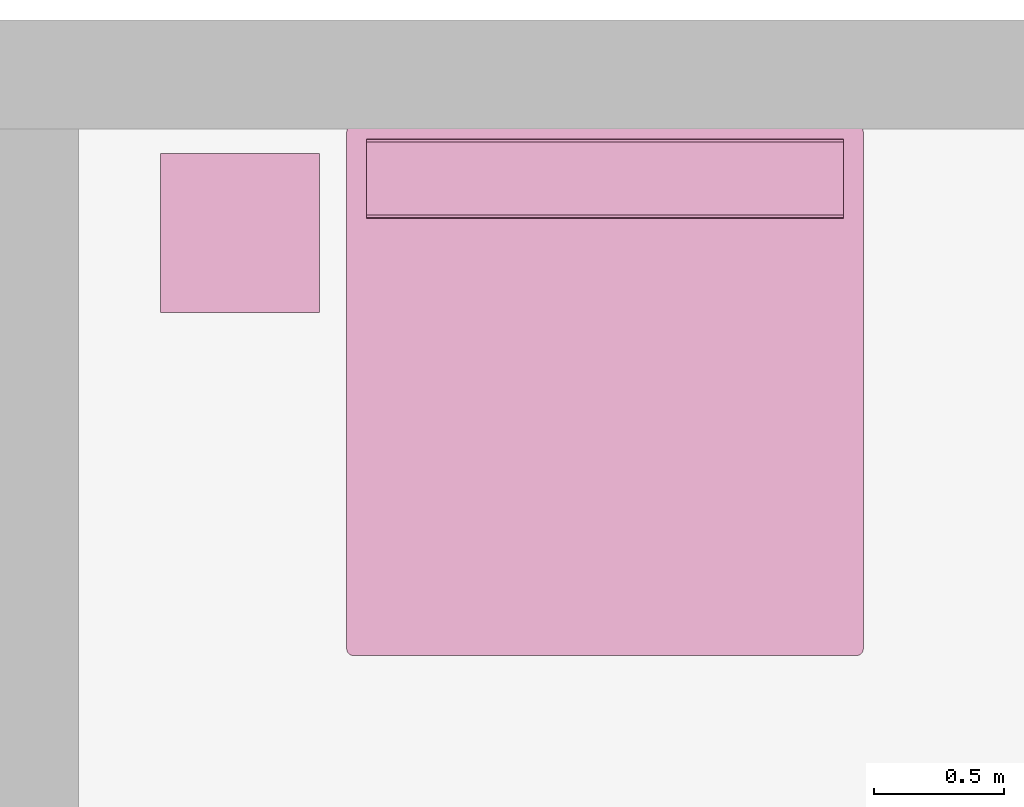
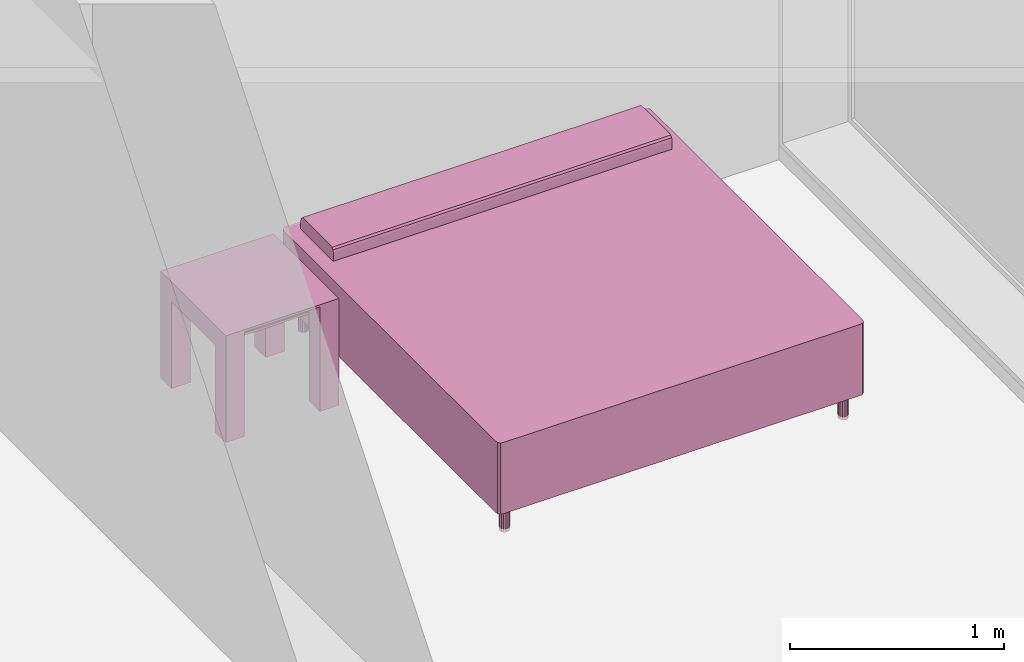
# One storey, part 8 of 8: 2 furnishings.
"""IFC4 building model written with IfcOpenShell, lengths in metres."""

from ifc_helpers import new_model, entity, si_unit, converted_unit, frame, origin, origin_2d_with_axis, place, context, project, spatial, polyline, rectangle, outline, extrude, face_set, surface_model, source, transform, mapped, element, save


model = new_model("IFC4")

# Units and contexts
model_context = context("Model", 3, precision=1e-09, world=origin())
plan_context = context("Plan", 3, precision=1e-09, world=origin())
ifc_project = project(units=[si_unit("LENGTHUNIT", "METRE"), si_unit("AREAUNIT", "SQUARE_METRE"), si_unit("VOLUMEUNIT", "CUBIC_METRE"), converted_unit("PLANEANGLEUNIT", "DEGREE", entity("IfcRatioMeasure", 0.01745329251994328), si_unit("PLANEANGLEUNIT", "RADIAN"), dimensions=[0, 0, 0, 0, 0, 0, 0]), si_unit("TIMEUNIT", "SECOND")], contexts=[model_context, plan_context])

# Site, building, storey, space
site_placement = place(None, origin())
site = spatial("IfcSite", under=ifc_project, at=site_placement, Name="Default", CompositionType="ELEMENT")
building_placement = place(site_placement, origin())
building = spatial("IfcBuilding", under=site, at=building_placement, CompositionType="ELEMENT")
storey_placement = place(building_placement, frame((0.0, 0.0, 3.100000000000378)))
storey = spatial("IfcBuildingStorey", under=building, at=storey_placement, Name="Level 2", CompositionType="ELEMENT", Elevation=3.100000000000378)
space_placement = place(storey_placement, origin())
space = spatial("IfcSpace", under=storey, at=space_placement, Name="A202", CompositionType="ELEMENT", PredefinedType="INTERNAL")

# Furnishings
shared_shape_1 = source(origin(), model_context, "Body", "SweptSolid", [
    extrude(rectangle(XDim=0.4067999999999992, YDim=0.4067999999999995, at=origin_2d_with_axis()), frame((0.01826576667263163, 0.09521107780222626, 0.4957000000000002), z_axis=(0.0, 0.0, 1.0), x_axis=(-1.0, 0.0, 0.0)), (0.0, 0.0, 1.0), 0.01270000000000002),
    extrude(outline(polyline([(-0.2732499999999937, -0.3050000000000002), (0.3240499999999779, -0.3050000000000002), (0.3240499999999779, 0.3049999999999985), (-0.2732499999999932, 0.3049999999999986), (-0.2732499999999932, 0.2034000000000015), (0.2224500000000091, 0.2034000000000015), (0.2224500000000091, -0.2033999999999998), (-0.2732499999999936, -0.2033999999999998), (-0.2732499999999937, -0.3050000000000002)])), frame((0.2216657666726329, 0.09521107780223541, 0.2732499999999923), z_axis=(1.0, 0.0, 0.0), x_axis=(0.0, 0.0, 1.0)), (0.0, 0.0, 1.0), 0.1016),
    extrude(outline(polyline([(-0.3050000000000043, -0.3240500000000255), (0.3049999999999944, -0.3240500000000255), (0.3049999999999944, 0.2732500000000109), (0.2034000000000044, 0.2732500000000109), (0.2034000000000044, -0.2224499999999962), (-0.2033999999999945, -0.2224499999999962), (-0.2033999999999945, 0.2732500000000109), (-0.3050000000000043, 0.2732500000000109), (-0.3050000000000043, -0.3240500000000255)])), frame((-0.2867342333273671, 0.09521107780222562, 0.2732500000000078), z_axis=(1.0, 0.0, 0.0), x_axis=(0.0, -1.0, 0.0)), (0.0, 0.0, 1.0), 0.1016),
    extrude(rectangle(XDim=0.4067999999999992, YDim=0.4067999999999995, at=origin_2d_with_axis()), frame((0.01826576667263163, 0.09521107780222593, 0.5973000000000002), z_axis=(0.0, 0.0, 1.0), x_axis=(-1.0, 0.0, 0.0)), (0.0, 0.0, 1.0), 0.01270000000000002),
    extrude(outline(polyline([(-0.3050000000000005, -0.3050000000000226), (0.3050000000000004, -0.3050000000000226), (0.3050000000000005, 0.3050000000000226), (-0.3050000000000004, 0.3050000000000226), (-0.3050000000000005, -0.3050000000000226)]), holes=[polyline([(-0.203399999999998, -0.2033999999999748), (-0.2033999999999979, 0.2034000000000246), (0.2034000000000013, 0.2034000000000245), (0.2034000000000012, -0.2033999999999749), (-0.203399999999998, -0.2033999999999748)])]), frame((0.01826576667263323, 0.09521107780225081, 0.5973000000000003), z_axis=(0.0, 0.0, 1.0), x_axis=(-1.0, 0.0, 0.0)), (0.0, 0.0, 1.0), 0.01269999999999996),
])
furnishing_1_placement = place(space_placement, frame((5.275734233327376, -0.9122110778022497, 0.01899999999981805)))
element("IfcFurnishingElement", 1, at=furnishing_1_placement, inside=space, Name="M_Table-Coffee:0610 x 0610 x 0610mm:0610 x 0610 x 0610mm", ObjectType="0610 x 0610 x 0610mm", context=model_context, shape_type="MappedRepresentation", body=[
    mapped(shared_shape_1, transform((0.0, 0.0, 0.0), scale=1.0)),
])
shared_shape_2 = source(origin(), model_context, "Body", "SurfaceModel", [
    surface_model("IfcFaceBasedSurfaceModel", [(0.001595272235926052, 0.02699527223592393, 0.3556), (0.001595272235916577, 2.008195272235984, 0.3556), (0.004998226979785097, 2.020895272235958, 0.3556), (0.01429527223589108, 2.030192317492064, 0.3556), (0.02699527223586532, 2.033595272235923, 0.3556), (1.957195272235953, 2.033595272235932, 0.3556), (1.969895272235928, 2.030192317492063, 0.3556), (1.979192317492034, 2.020895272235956, 0.3556), (1.982595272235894, 2.008195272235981, 0.3556), (1.982595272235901, 0.02699527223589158, 0.3556), (1.979192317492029, 0.01429527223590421, 0.3556), (1.969895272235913, 0.004998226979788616, 0.3556), (1.957195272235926, 0.001595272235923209, 0.3556), (0.02699527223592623, 0.00159527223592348, 0.3556), (0.01429527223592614, 0.004998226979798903, 0.3556), (0.00499822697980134, 0.01429527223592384, 0.3556), (0.001595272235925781, 0.02699527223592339, 0.1524), (0.001595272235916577, 2.008195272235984, 0.1524), (0.004998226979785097, 2.020895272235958, 0.1524), (0.01429527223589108, 2.030192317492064, 0.1524), (0.02699527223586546, 2.033595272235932, 0.1524), (1.957195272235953, 2.033595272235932, 0.1524), (1.969895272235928, 2.030192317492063, 0.1524), (1.979192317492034, 2.020895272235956, 0.1524), (1.982595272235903, 2.008195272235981, 0.1524), (1.982595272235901, 0.02699527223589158, 0.1524), (1.979192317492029, 0.01429527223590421, 0.1524), (1.969895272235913, 0.004998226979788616, 0.1524), (1.957195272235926, 0.001595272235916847, 0.1524), (0.02699527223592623, 0.00159527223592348, 0.1524), (0.01429527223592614, 0.004998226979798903, 0.1524), (0.00499822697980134, 0.01429527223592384, 0.1524), (0.003559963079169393, 0.01966291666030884, 0.1524000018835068), (0.003296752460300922, 0.02064526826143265, 0.3555999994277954), (0.009646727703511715, 0.009646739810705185, 0.3555999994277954), (0.009646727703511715, 0.009646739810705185, 0.1524000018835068), (0.02064525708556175, 0.003296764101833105, 0.1524000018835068), (0.01966290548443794, 0.003559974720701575, 0.3555999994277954), (1.964527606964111, 0.003559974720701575, 0.1524000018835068), (1.963545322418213, 0.003296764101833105, 0.3555999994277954), (1.974543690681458, 0.009646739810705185, 0.3555999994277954), (1.974543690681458, 0.009646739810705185, 0.1524000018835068), (1.980893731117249, 0.02064526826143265, 0.1524000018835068), (1.98063051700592, 0.01966291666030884, 0.3555999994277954), (1.980893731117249, 2.014545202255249, 0.3555999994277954), (1.980893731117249, 2.014545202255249, 0.1524000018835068), (1.974543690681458, 2.025543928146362, 0.3555999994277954), (1.974543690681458, 2.025543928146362, 0.1524000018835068), (1.963545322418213, 2.031893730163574, 0.1524000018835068), (1.964527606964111, 2.031630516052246, 0.3555999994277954), (0.01966290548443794, 2.031630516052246, 0.1524000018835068), (0.02064525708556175, 2.031893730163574, 0.3555999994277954), (0.009646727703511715, 2.025543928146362, 0.3555999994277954), (0.009646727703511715, 2.025543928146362, 0.1524000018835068), (0.003296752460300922, 2.014545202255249, 0.1524000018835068), (0.003559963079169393, 2.015527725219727, 0.3555999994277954), (0.07779527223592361, 1.677995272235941, 0.5588000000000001), (0.07779527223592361, 1.677995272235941, 0.6096), (0.07779527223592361, 1.681398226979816, 0.6223), (0.07779527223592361, 1.690695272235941, 0.6315970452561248), (0.07779527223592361, 1.703395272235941, 0.6349999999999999), (0.07779527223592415, 1.957395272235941, 0.6349999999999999), (0.07779527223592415, 1.970095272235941, 0.6315970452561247), (0.07779527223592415, 1.979392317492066, 0.6222999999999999), (0.07779527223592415, 1.982795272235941, 0.6095999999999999), (0.07779527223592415, 1.982795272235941, 0.5588000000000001), (1.906395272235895, 1.677995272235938, 0.5588000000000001), (1.906395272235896, 1.982795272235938, 0.5588000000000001), (1.906395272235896, 1.982795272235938, 0.6095999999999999), (1.906395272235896, 1.979392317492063, 0.6222999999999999), (1.906395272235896, 1.970095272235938, 0.6315970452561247), (1.906395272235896, 1.957395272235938, 0.6349999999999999), (1.906395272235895, 1.703395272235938, 0.6349999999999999), (1.906395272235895, 1.690695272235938, 0.6315970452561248), (1.906395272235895, 1.681398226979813, 0.6223), (1.906395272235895, 1.677995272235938, 0.6096), (0.07779525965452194, 1.679741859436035, 0.6161183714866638), (1.906395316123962, 1.679696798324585, 0.6159499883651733), (0.07779525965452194, 1.686046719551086, 0.6269484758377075), (1.906395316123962, 1.686046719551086, 0.6269484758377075), (1.906395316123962, 1.69704532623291, 0.6332985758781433), (0.07779525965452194, 1.696876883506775, 0.6332534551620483), (1.906395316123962, 1.963913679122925, 0.6332534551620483), (0.07779525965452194, 1.96374523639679, 0.6332985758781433), (0.07779525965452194, 1.974743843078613, 0.6269484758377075), (1.906395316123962, 1.974743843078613, 0.6269484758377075), (1.906395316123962, 1.981093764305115, 0.6159499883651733), (0.07779525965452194, 1.981048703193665, 0.6161183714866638), (0.1031952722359, 1.957395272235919, 0.1524), (0.1006798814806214, 1.946374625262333, 0.1524), (0.09363191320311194, 1.937536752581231, 0.1524), (0.08344730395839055, 1.932632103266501, 0.1524), (0.07214324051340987, 1.932632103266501, 0.1524), (0.06195863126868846, 1.937536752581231, 0.1524), (0.05491066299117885, 1.946374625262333, 0.1524), (0.05239527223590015, 1.957395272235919, 0.1524), (0.05491066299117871, 1.968415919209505, 0.1524), (0.06195863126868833, 1.977253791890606, 0.1524), (0.07214324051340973, 1.982158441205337, 0.1524), (0.08344730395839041, 1.982158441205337, 0.1524), (0.0936319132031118, 1.977253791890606, 0.1524), (0.1006798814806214, 1.968415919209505, 0.1524), (1.931795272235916, 1.957395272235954, 0.1524), (1.929279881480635, 1.946374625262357, 0.1524), (1.922231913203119, 1.937536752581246, 0.1524), (1.912047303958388, 1.932632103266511, 0.1524), (1.900743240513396, 1.932632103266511, 0.1524), (1.890558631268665, 1.937536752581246, 0.1524), (1.883510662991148, 1.946374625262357, 0.1524), (1.880995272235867, 1.957395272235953, 0.1524), (1.883510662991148, 1.96841591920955, 0.1524), (1.890558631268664, 1.97725379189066, 0.1524), (1.900743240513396, 1.982158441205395, 0.1524), (1.912047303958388, 1.982158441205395, 0.1524), (1.922231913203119, 1.97725379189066, 0.1524), (1.929279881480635, 1.96841591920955, 0.1524), (1.931795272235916, 0.0777952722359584, 0.1524), (1.929279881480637, 0.06677462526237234, 0.1524), (1.922231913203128, 0.0579367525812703, 0.1524), (1.912047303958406, 0.05303210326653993, 0.1524), (1.900743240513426, 0.05303210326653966, 0.1524), (1.890558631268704, 0.0579367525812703, 0.1524), (1.883510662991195, 0.06677462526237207, 0.1524), (1.880995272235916, 0.07779527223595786, 0.1524), (1.883510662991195, 0.08881591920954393, 0.1524), (1.890558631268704, 0.09765379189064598, 0.1524), (1.900743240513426, 0.1025584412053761, 0.1524), (1.912047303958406, 0.1025584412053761, 0.1524), (1.922231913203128, 0.09765379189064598, 0.1524), (1.929279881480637, 0.08881591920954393, 0.1524), (0.1031952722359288, 0.0777952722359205, 0.1524), (0.10067988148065, 0.06677462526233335, 0.1524), (0.09363191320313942, 0.05793675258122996, 0.1524), (0.08344730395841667, 0.05303210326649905, 0.1524), (0.07214324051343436, 0.05303210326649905, 0.1524), (0.06195863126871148, 0.05793675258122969, 0.1524), (0.05491066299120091, 0.06677462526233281, 0.1524), (0.05239527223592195, 0.0777952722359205, 0.1524), (0.05491066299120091, 0.08881591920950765, 0.1524), (0.06195863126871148, 0.09765379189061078, 0.1524), (0.07214324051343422, 0.102558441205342, 0.1524), (0.08344730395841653, 0.102558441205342, 0.1524), (0.09363191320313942, 0.09765379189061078, 0.1524), (0.1006798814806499, 0.08881591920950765, 0.1524), (0.1031952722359, 1.957395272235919, 0.0), (0.1006798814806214, 1.946374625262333, 0.0), (0.09363191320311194, 1.937536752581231, 0.0), (0.08344730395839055, 1.932632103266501, 0.0), (0.07214324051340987, 1.932632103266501, 0.0), (0.06195863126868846, 1.937536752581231, 0.0), (0.05491066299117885, 1.946374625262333, 0.0), (0.05239527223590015, 1.957395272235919, 0.0), (0.05491066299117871, 1.968415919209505, 0.0), (0.06195863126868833, 1.977253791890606, 0.0), (0.07214324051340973, 1.982158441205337, 0.0), (0.08344730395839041, 1.982158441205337, 0.0), (0.0936319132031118, 1.977253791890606, 0.0), (0.1006798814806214, 1.968415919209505, 0.0), (1.931795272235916, 1.957395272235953, 0.0), (1.929279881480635, 1.946374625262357, 0.0), (1.922231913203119, 1.937536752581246, 0.0), (1.912047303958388, 1.932632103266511, 0.0), (1.900743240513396, 1.932632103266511, 0.0), (1.890558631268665, 1.937536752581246, 0.0), (1.883510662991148, 1.946374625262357, 0.0), (1.880995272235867, 1.957395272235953, 0.0), (1.883510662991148, 1.96841591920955, 0.0), (1.890558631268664, 1.97725379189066, 0.0), (1.900743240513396, 1.982158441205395, 0.0), (1.912047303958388, 1.982158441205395, 0.0), (1.922231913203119, 1.97725379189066, 0.0), (1.929279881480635, 1.96841591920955, 0.0), (1.931795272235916, 0.07779527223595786, 0.0), (1.929279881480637, 0.06677462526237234, 0.0), (1.922231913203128, 0.0579367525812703, 0.0), (1.912047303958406, 0.05303210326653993, 0.0), (1.900743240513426, 0.05303210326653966, 0.0), (1.890558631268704, 0.0579367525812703, 0.0), (1.883510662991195, 0.06677462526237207, 0.0), (1.880995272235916, 0.07779527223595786, 0.0), (1.883510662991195, 0.08881591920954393, 0.0), (1.890558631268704, 0.09765379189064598, 0.0), (1.900743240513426, 0.1025584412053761, 0.0), (1.912047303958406, 0.1025584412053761, 0.0), (1.922231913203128, 0.09765379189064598, 0.0), (1.929279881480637, 0.08881591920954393, 0.0), (0.1031952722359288, 0.07779527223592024, 0.0), (0.10067988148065, 0.06677462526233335, 0.0), (0.09363191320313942, 0.05793675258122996, 0.0), (0.08344730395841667, 0.05303210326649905, 0.0), (0.07214324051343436, 0.05303210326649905, 0.0), (0.06195863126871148, 0.05793675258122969, 0.0), (0.05491066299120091, 0.06677462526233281, 0.0), (0.05239527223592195, 0.0777952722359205, 0.0), (0.05491066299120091, 0.08881591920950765, 0.0), (0.06195863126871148, 0.09765379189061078, 0.0), (0.07214324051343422, 0.102558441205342, 0.0), (0.08344730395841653, 0.102558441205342, 0.0), (0.09363191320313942, 0.09765379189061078, 0.0), (0.1006798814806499, 0.08881591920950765, 0.0), (0.05365297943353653, 1.951884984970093, 0.1524000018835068), (0.05843466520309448, 1.94195568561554, 0.0), (0.05843466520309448, 1.94195568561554, 0.1524000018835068), (0.1020657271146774, 1.952446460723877, 0.1524000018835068), (0.1019376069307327, 1.951884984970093, 0.0), (0.06705092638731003, 1.935084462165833, 0.0), (0.06705092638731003, 1.935084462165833, 0.1524000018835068), (0.05352479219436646, 1.952446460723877, 0.0), (0.07779525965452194, 1.932632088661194, 0.1524000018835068), (0.07779525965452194, 1.932632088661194, 0.0), (0.08853958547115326, 1.935084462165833, 0.0), (0.08853958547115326, 1.935084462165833, 0.1524000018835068), (0.09715592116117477, 1.94195568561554, 0.0), (0.09715592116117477, 1.94195568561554, 0.1524000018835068), (0.1020657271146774, 1.962344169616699, 0.0), (0.1019376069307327, 1.962905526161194, 0.1524000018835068), (0.09715592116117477, 1.972834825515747, 0.0), (0.09715592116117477, 1.972834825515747, 0.1524000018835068), (0.08853958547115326, 1.979706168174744, 0.1524000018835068), (0.08853958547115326, 1.979706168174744, 0.0), (0.07779525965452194, 1.982158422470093, 0.1524000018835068), (0.07779525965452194, 1.982158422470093, 0.0), (0.06705092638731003, 1.979706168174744, 0.1524000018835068), (0.06705092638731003, 1.979706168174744, 0.0), (0.05352479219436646, 1.962344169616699, 0.1524000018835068), (0.05843466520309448, 1.972834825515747, 0.1524000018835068), (0.05843466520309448, 1.972834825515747, 0.0), (0.05365297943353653, 1.962905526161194, 0.0), (1.882253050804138, 1.951884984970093, 0.1524000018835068), (1.88703465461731, 1.94195568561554, 0.1524000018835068), (1.88703465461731, 1.94195568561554, 0.0), (1.930537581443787, 1.951884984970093, 0.0), (1.930665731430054, 1.952446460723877, 0.1524000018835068), (1.895650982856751, 1.935084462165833, 0.0), (1.895650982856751, 1.935084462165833, 0.1524000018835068), (1.882124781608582, 1.952446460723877, 0.0), (1.906395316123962, 1.932632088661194, 0.1524000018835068), (1.906395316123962, 1.932632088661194, 0.0), (1.917139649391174, 1.935084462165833, 0.0), (1.917139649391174, 1.935084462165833, 0.1524000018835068), (1.925755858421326, 1.94195568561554, 0.0), (1.925755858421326, 1.94195568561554, 0.1524000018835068), (1.930665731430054, 1.962344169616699, 0.0), (1.930537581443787, 1.962905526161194, 0.1524000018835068), (1.925755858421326, 1.972834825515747, 0.1524000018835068), (1.925755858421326, 1.972834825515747, 0.0), (1.917139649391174, 1.979706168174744, 0.1524000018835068), (1.917139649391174, 1.979706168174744, 0.0), (1.906395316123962, 1.982158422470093, 0.1524000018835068), (1.906395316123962, 1.982158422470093, 0.0), (1.895650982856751, 1.979706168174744, 0.1524000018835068), (1.895650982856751, 1.979706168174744, 0.0), (1.882124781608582, 1.962344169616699, 0.1524000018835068), (1.88703465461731, 1.972834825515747, 0.0), (1.88703465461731, 1.972834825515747, 0.1524000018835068), (1.882253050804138, 1.962905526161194, 0.0), (1.882253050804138, 0.07228492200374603, 0.1524000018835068), (1.88703465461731, 0.0623556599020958, 0.0), (1.88703465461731, 0.0623556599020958, 0.1524000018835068), (1.930537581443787, 0.07228492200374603, 0.0), (1.930665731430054, 0.0728464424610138, 0.1524000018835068), (1.895650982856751, 0.05548442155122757, 0.1524000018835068), (1.895650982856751, 0.05548442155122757, 0.0), (1.882124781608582, 0.0728464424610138, 0.0), (1.906395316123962, 0.05303210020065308, 0.0), (1.906395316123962, 0.05303210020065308, 0.1524000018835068), (1.917139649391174, 0.05548442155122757, 0.1524000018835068), (1.917139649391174, 0.05548442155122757, 0.0), (1.925755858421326, 0.0623556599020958, 0.0), (1.925755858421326, 0.0623556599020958, 0.1524000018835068), (1.930665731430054, 0.08274409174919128, 0.0), (1.930537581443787, 0.08330561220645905, 0.1524000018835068), (1.925755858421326, 0.09323488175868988, 0.1524000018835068), (1.925755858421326, 0.09323488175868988, 0.0), (1.917139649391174, 0.1001061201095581, 0.0), (1.917139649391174, 0.1001061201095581, 0.1524000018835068), (1.906395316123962, 0.1025584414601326, 0.0), (1.906395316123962, 0.1025584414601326, 0.1524000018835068), (1.895650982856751, 0.1001061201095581, 0.0), (1.895650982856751, 0.1001061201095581, 0.1524000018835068), (1.882124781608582, 0.08274409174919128, 0.1524000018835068), (1.88703465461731, 0.09323488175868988, 0.0), (1.88703465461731, 0.09323488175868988, 0.1524000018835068), (1.882253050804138, 0.08330561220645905, 0.0), (0.05365297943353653, 0.07228492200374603, 0.1524000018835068), (0.05843466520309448, 0.0623556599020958, 0.1524000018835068), (0.05843466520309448, 0.0623556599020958, 0.0), (0.1020657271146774, 0.0728464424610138, 0.1524000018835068), (0.1019376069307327, 0.07228492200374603, 0.0), (0.06705092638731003, 0.05548442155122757, 0.1524000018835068), (0.06705092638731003, 0.05548442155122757, 0.0), (0.05352479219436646, 0.0728464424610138, 0.0), (0.07779525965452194, 0.05303210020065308, 0.0), (0.07779525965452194, 0.05303210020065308, 0.1524000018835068), (0.08853958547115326, 0.05548442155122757, 0.1524000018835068), (0.08853958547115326, 0.05548442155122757, 0.0), (0.09715592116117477, 0.0623556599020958, 0.1524000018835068), (0.09715592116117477, 0.0623556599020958, 0.0), (0.1020657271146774, 0.08274409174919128, 0.0), (0.1019376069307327, 0.08330561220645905, 0.1524000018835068), (0.09715592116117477, 0.09323488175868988, 0.0), (0.09715592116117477, 0.09323488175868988, 0.1524000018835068), (0.08853958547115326, 0.1001061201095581, 0.0), (0.08853958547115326, 0.1001061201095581, 0.1524000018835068), (0.07779525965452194, 0.1025584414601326, 0.0), (0.07779525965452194, 0.1025584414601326, 0.1524000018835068), (0.06705092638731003, 0.1001061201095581, 0.0), (0.06705092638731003, 0.1001061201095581, 0.1524000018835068), (0.05352479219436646, 0.08274409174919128, 0.1524000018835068), (0.05843466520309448, 0.09323488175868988, 0.1524000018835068), (0.05843466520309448, 0.09323488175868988, 0.0), (0.05365297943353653, 0.08330561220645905, 0.0), (0.02699527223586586, 2.033595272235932, 0.5588000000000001), (1.957195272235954, 2.033595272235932, 0.5588000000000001), (1.969895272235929, 2.030192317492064, 0.5588000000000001), (1.979192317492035, 2.020895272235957, 0.5588000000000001), (1.982595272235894, 2.008195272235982, 0.5588000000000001), (1.982595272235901, 0.02699527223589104, 0.5588000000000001), (1.979192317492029, 0.0142952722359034, 0.5588000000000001), (1.969895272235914, 0.004998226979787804, 0.5588000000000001), (1.957195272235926, 0.001595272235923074, 0.5588000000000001), (0.02699527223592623, 0.001595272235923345, 0.5588000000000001), (0.01429527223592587, 0.004998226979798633, 0.5588000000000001), (0.004998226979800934, 0.01429527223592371, 0.5588000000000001), (0.00159527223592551, 0.0269952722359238, 0.5588000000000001), (0.001595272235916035, 2.008195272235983, 0.5588000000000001), (0.004998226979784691, 2.020895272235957, 0.5588000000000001), (0.01429527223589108, 2.030192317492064, 0.5588000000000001), (0.02699527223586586, 2.033595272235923, 0.3556), (1.957195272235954, 2.033595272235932, 0.3556), (1.969895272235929, 2.030192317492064, 0.3556), (1.979192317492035, 2.020895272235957, 0.3556), (1.982595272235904, 2.008195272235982, 0.3556), (1.982595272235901, 0.02699527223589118, 0.3556), (1.979192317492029, 0.0142952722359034, 0.3556), (1.969895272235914, 0.004998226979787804, 0.3556), (1.957195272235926, 0.001595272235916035, 0.3556), (0.02699527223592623, 0.001595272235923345, 0.3556), (0.01429527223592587, 0.004998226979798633, 0.3556), (0.004998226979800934, 0.01429527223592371, 0.3556), (0.001595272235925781, 0.02699527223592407, 0.3556), (0.001595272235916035, 2.008195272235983, 0.3556), (0.004998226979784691, 2.020895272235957, 0.3556), (0.01429527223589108, 2.030192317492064, 0.3556), (0.01966290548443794, 2.031630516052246, 0.3555999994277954), (0.02064525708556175, 2.031893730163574, 0.5588000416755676), (0.009646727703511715, 2.025543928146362, 0.5588000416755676), (0.009646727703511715, 2.025543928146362, 0.3555999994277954), (0.003296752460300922, 2.014545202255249, 0.3555999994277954), (0.003559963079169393, 2.015527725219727, 0.5588000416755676), (0.003559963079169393, 0.01966291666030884, 0.3555999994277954), (0.003296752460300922, 0.02064526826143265, 0.5588000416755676), (0.009646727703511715, 0.009646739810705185, 0.5588000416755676), (0.009646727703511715, 0.009646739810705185, 0.3555999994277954), (0.02064525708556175, 0.003296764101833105, 0.3555999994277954), (0.01966290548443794, 0.003559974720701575, 0.5588000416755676), (1.964527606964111, 0.003559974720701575, 0.3555999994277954), (1.963545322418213, 0.003296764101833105, 0.5588000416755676), (1.974543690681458, 0.009646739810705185, 0.5588000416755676), (1.974543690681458, 0.009646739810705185, 0.3555999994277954), (1.980893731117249, 0.02064526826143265, 0.3555999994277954), (1.98063051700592, 0.01966291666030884, 0.5588000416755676), (1.98063051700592, 2.015527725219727, 0.3555999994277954), (1.980893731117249, 2.014545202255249, 0.5588000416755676), (1.974543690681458, 2.025543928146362, 0.5588000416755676), (1.974543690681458, 2.025543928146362, 0.3555999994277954), (1.963545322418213, 2.031893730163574, 0.3555999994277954), (1.964527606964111, 2.031630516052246, 0.5588000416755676)], [face_set([[[0, 1, 2, 3, 4, 5, 6, 7, 8, 9, 10, 11, 12, 13, 14, 15]], [[16, 17, 18, 19, 20, 21, 22, 23, 24, 25, 26, 27, 28, 29, 30, 31]], [[15, 32, 31]], [[32, 15, 33]], [[33, 0, 16]], [[34, 35, 30, 14]], [[16, 32, 33]], [[36, 29, 13]], [[37, 30, 36]], [[35, 34, 15, 31]], [[30, 37, 14]], [[13, 37, 36]], [[12, 28, 29, 13]], [[11, 38, 27]], [[38, 11, 39]], [[39, 12, 28]], [[40, 41, 26, 10]], [[28, 38, 39]], [[42, 25, 9]], [[43, 26, 42]], [[41, 40, 11, 27]], [[26, 43, 10]], [[9, 43, 42]], [[8, 9, 25, 24]], [[44, 8, 24, 45]], [[44, 45, 23, 7]], [[46, 47, 22, 6]], [[48, 21, 5]], [[5, 49, 48]], [[22, 49, 6]], [[47, 46, 7, 23]], [[49, 22, 48]], [[4, 5, 21, 20]], [[3, 50, 19]], [[50, 3, 51]], [[51, 4, 20]], [[52, 53, 18, 2]], [[20, 50, 51]], [[54, 17, 1]], [[55, 18, 54]], [[53, 52, 3, 19]], [[18, 55, 2]], [[1, 55, 54]], [[0, 1, 17, 16]]]), face_set([[[56, 57, 58, 59, 60, 61, 62, 63, 64, 65]], [[66, 67, 68, 69, 70, 71, 72, 73, 74, 75]], [[57, 56, 66, 75]], [[74, 76, 77]], [[77, 57, 75]], [[57, 77, 76]], [[78, 79, 73, 59]], [[80, 72, 60]], [[60, 81, 80]], [[73, 81, 59]], [[79, 78, 58, 74]], [[81, 73, 80]], [[74, 58, 76]], [[61, 71, 72, 60]], [[62, 82, 70]], [[82, 62, 83]], [[83, 61, 71]], [[84, 85, 69, 63]], [[71, 82, 83]], [[86, 68, 64]], [[87, 69, 86]], [[85, 84, 62, 70]], [[69, 87, 63]], [[64, 87, 86]], [[65, 67, 68, 64]], [[56, 65, 67, 66]]]), face_set([[[88, 89, 90, 91, 92, 93, 94, 95, 96, 97, 98, 99, 100, 101]], [[102, 103, 104, 105, 106, 107, 108, 109, 110, 111, 112, 113, 114, 115]], [[116, 117, 118, 119, 120, 121, 122, 123, 124, 125, 126, 127, 128, 129]], [[130, 131, 132, 133, 134, 135, 136, 137, 138, 139, 140, 141, 142, 143]], [[144, 145, 146, 147, 148, 149, 150, 151, 152, 153, 154, 155, 156, 157]], [[158, 159, 160, 161, 162, 163, 164, 165, 166, 167, 168, 169, 170, 171]], [[172, 173, 174, 175, 176, 177, 178, 179, 180, 181, 182, 183, 184, 185]], [[186, 187, 188, 189, 190, 191, 192, 193, 194, 195, 196, 197, 198, 199]], [[94, 200, 150]], [[201, 149, 202, 94]], [[203, 204, 89]], [[92, 148, 205, 206]], [[150, 200, 207]], [[200, 95, 207]], [[94, 150, 201]], [[206, 205, 149, 93]], [[149, 93, 202]], [[92, 208, 147, 209]], [[95, 151, 207]], [[90, 146, 210, 211]], [[145, 212, 90, 213]], [[147, 91, 211, 210]], [[213, 89, 145]], [[204, 203, 144]], [[212, 146, 90]], [[89, 204, 145]], [[208, 91, 147]], [[92, 209, 148]], [[203, 88, 144]], [[214, 144, 88]], [[215, 214, 88]], [[100, 156, 216, 217]], [[157, 101, 217, 216]], [[218, 219, 155, 99]], [[214, 215, 157]], [[157, 215, 101]], [[100, 156, 219, 218]], [[220, 221, 154, 98]], [[222, 223, 153, 97]], [[151, 95, 224]], [[225, 226, 152, 96]], [[226, 225, 97, 153]], [[151, 224, 227]], [[98, 154, 223, 222]], [[152, 227, 96]], [[221, 220, 99, 155]], [[96, 227, 224]], [[164, 228, 108]], [[108, 229, 163, 230]], [[103, 231, 232]], [[106, 162, 233, 234]], [[235, 228, 164]], [[235, 109, 228]], [[230, 164, 108]], [[234, 233, 163, 107]], [[229, 107, 163]], [[106, 236, 161, 237]], [[235, 165, 109]], [[104, 160, 238, 239]], [[240, 241, 104, 160]], [[241, 240, 159, 103]], [[161, 105, 239, 238]], [[158, 232, 231]], [[159, 231, 103]], [[236, 105, 161]], [[106, 237, 162]], [[158, 102, 232]], [[102, 158, 242]], [[102, 242, 243]], [[244, 245, 170, 114]], [[245, 244, 115, 171]], [[246, 247, 169, 113]], [[171, 243, 242]], [[115, 243, 171]], [[114, 170, 247, 246]], [[248, 249, 168, 112]], [[250, 251, 167, 111]], [[252, 109, 165]], [[110, 166, 253, 254]], [[167, 111, 254, 253]], [[255, 252, 165]], [[112, 168, 251, 250]], [[110, 255, 166]], [[249, 248, 113, 169]], [[252, 255, 110]], [[178, 256, 122]], [[121, 177, 257, 258]], [[117, 259, 260]], [[261, 262, 176, 120]], [[263, 256, 178]], [[263, 123, 256]], [[178, 122, 258, 257]], [[121, 177, 262, 261]], [[264, 175, 265, 120]], [[263, 179, 123]], [[266, 267, 174, 118]], [[268, 269, 118, 174]], [[269, 268, 173, 117]], [[267, 266, 119, 175]], [[172, 260, 259]], [[173, 259, 117]], [[175, 119, 265]], [[176, 264, 120]], [[172, 116, 260]], [[116, 172, 270]], [[116, 270, 271]], [[272, 273, 184, 128]], [[273, 272, 129, 185]], [[127, 183, 274, 275]], [[185, 271, 270]], [[129, 271, 185]], [[275, 274, 184, 128]], [[126, 182, 276, 277]], [[125, 181, 278, 279]], [[280, 123, 179]], [[124, 180, 281, 282]], [[181, 125, 282, 281]], [[283, 280, 179]], [[279, 278, 182, 126]], [[124, 283, 180]], [[183, 127, 277, 276]], [[280, 283, 124]], [[136, 284, 192]], [[285, 286, 191, 135]], [[287, 288, 131]], [[289, 290, 190, 134]], [[192, 284, 291]], [[284, 137, 291]], [[286, 285, 136, 192]], [[135, 191, 290, 289]], [[292, 189, 293, 134]], [[137, 193, 291]], [[294, 295, 188, 132]], [[188, 132, 296, 297]], [[131, 187, 297, 296]], [[295, 294, 133, 189]], [[288, 287, 186]], [[131, 288, 187]], [[189, 133, 293]], [[190, 292, 134]], [[287, 130, 186]], [[298, 186, 130]], [[299, 298, 130]], [[142, 198, 300, 301]], [[199, 143, 301, 300]], [[141, 197, 302, 303]], [[298, 299, 199]], [[199, 299, 143]], [[303, 302, 198, 142]], [[140, 196, 304, 305]], [[139, 195, 306, 307]], [[193, 137, 308]], [[309, 310, 194, 138]], [[310, 309, 139, 195]], [[193, 308, 311]], [[307, 306, 196, 140]], [[194, 311, 138]], [[197, 141, 305, 304]], [[138, 311, 308]]]), face_set([[[312, 313, 314, 315, 316, 317, 318, 319, 320, 321, 322, 323, 324, 325, 326, 327]], [[328, 329, 330, 331, 332, 333, 334, 335, 336, 337, 338, 339, 340, 341, 342, 343]], [[327, 344, 343]], [[344, 327, 345]], [[345, 312, 328]], [[346, 347, 342, 326]], [[328, 344, 345]], [[348, 341, 325]], [[349, 342, 348]], [[347, 346, 327, 343]], [[342, 349, 326]], [[325, 349, 348]], [[324, 325, 341, 340]], [[323, 350, 339]], [[350, 323, 351]], [[351, 324, 340]], [[352, 353, 338, 322]], [[340, 350, 351]], [[354, 337, 321]], [[355, 338, 354]], [[353, 352, 323, 339]], [[338, 355, 322]], [[321, 355, 354]], [[320, 336, 337, 321]], [[319, 356, 335]], [[356, 319, 357]], [[357, 320, 336]], [[358, 359, 334, 318]], [[336, 356, 357]], [[360, 333, 317]], [[361, 334, 360]], [[359, 358, 319, 335]], [[334, 361, 318]], [[317, 361, 360]], [[316, 317, 333, 332]], [[315, 362, 331]], [[362, 315, 363]], [[363, 316, 332]], [[364, 365, 330, 314]], [[332, 362, 363]], [[366, 329, 313]], [[367, 330, 366]], [[365, 364, 315, 331]], [[330, 367, 314]], [[313, 367, 366]], [[312, 313, 329, 328]]])]),
])
furnishing_2_placement = place(space_placement, frame((5.700404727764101, -2.438095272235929, 0.0)))
element("IfcFurnishingElement", 2, at=furnishing_2_placement, inside=space, Name="M_Bed-Standard:1981 x 2032mm - King:1981 x 2032mm - King", ObjectType="1981 x 2032mm - King", context=model_context, shape_type="MappedRepresentation", body=[
    mapped(shared_shape_2, transform((0.0, 0.0, 0.0), scale=1.0)),
])

save(model, "model.ifc")
